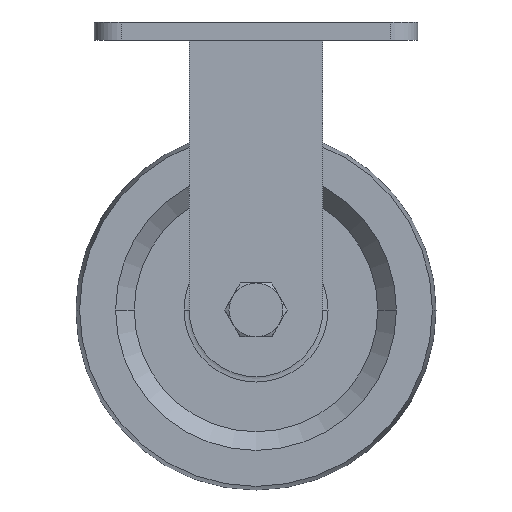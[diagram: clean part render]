
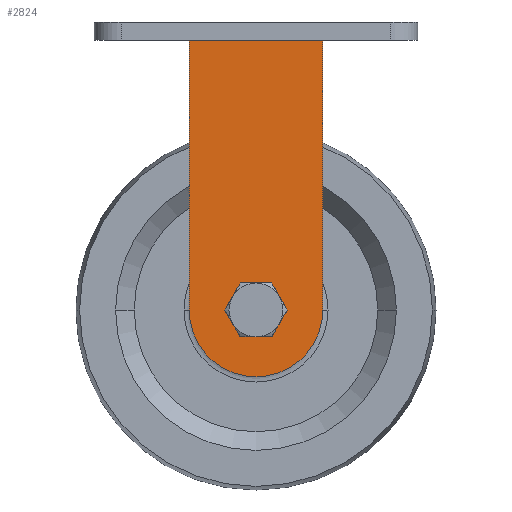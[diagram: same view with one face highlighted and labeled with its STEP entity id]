
A CAD part, front view. The second image highlights one B-rep face of the part: STEP entity #2824.
In plain terms, the highlighted planar face has unit normal (0, -1, 0).
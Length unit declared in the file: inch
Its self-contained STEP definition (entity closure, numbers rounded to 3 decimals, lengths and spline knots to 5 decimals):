
#46 = CARTESIAN_POINT ( 'NONE',  ( 0.92825, -1.4675, 3.75 ) ) ;
#59 = DIRECTION ( 'NONE',  ( 1., 0., 0. ) ) ;
#80 = CARTESIAN_POINT ( 'NONE',  ( 0.92825, -1.4675, 0. ) ) ;
#142 = EDGE_CURVE ( 'NONE', #2082, #633, #2380, .T. ) ;
#144 = LINE ( 'NONE', #1670, #2710 ) ;
#306 = DIRECTION ( 'NONE',  ( 0., -1., 0. ) ) ;
#369 = DIRECTION ( 'NONE',  ( 0., -1., 0. ) ) ;
#459 = CIRCLE ( 'NONE', #634, 0.15625 ) ;
#468 = ORIENTED_EDGE ( 'NONE', *, *, #1844, .T. ) ;
#595 = CARTESIAN_POINT ( 'NONE',  ( -0.92825, -1.4675, 0. ) ) ;
#633 = VERTEX_POINT ( 'NONE', #2648 ) ;
#634 = AXIS2_PLACEMENT_3D ( 'NONE', #3007, #369, #3273 ) ;
#643 = VERTEX_POINT ( 'NONE', #2471 ) ;
#866 = CARTESIAN_POINT ( 'NONE',  ( 0., -1.4675, 0. ) ) ;
#944 = FACE_OUTER_BOUND ( 'NONE', #1012, .T. ) ;
#1012 = EDGE_LOOP ( 'NONE', ( #1408, #468, #2778, #2937 ) ) ;
#1021 = CARTESIAN_POINT ( 'NONE',  ( 0., -1.4675, 0. ) ) ;
#1094 = DIRECTION ( 'NONE',  ( 0., 0., -1. ) ) ;
#1245 = CIRCLE ( 'NONE', #2556, 0.15625 ) ;
#1382 = PLANE ( 'NONE',  #2649 ) ;
#1384 = EDGE_CURVE ( 'NONE', #643, #1796, #1245, .T. ) ;
#1386 = LINE ( 'NONE', #1609, #2860 ) ;
#1389 = AXIS2_PLACEMENT_3D ( 'NONE', #2651, #306, #59 ) ;
#1408 = ORIENTED_EDGE ( 'NONE', *, *, #3282, .T. ) ;
#1603 = ORIENTED_EDGE ( 'NONE', *, *, #1384, .F. ) ;
#1609 = CARTESIAN_POINT ( 'NONE',  ( -0.92825, -1.4675, 0. ) ) ;
#1670 = CARTESIAN_POINT ( 'NONE',  ( 0.92825, -1.4675, 3.75 ) ) ;
#1796 = VERTEX_POINT ( 'NONE', #2354 ) ;
#1807 = EDGE_CURVE ( 'NONE', #2468, #2082, #2422, .T. ) ;
#1844 = EDGE_CURVE ( 'NONE', #3346, #2468, #1386, .T. ) ;
#1902 = FACE_BOUND ( 'NONE', #3058, .T. ) ;
#2013 = ORIENTED_EDGE ( 'NONE', *, *, #3250, .F. ) ;
#2082 = VERTEX_POINT ( 'NONE', #80 ) ;
#2243 = DIRECTION ( 'NONE',  ( 0., -1., 0. ) ) ;
#2338 = DIRECTION ( 'NONE',  ( 0., -1., 0. ) ) ;
#2354 = CARTESIAN_POINT ( 'NONE',  ( -0.15625, -1.4675, 0. ) ) ;
#2380 = LINE ( 'NONE', #46, #2756 ) ;
#2422 = CIRCLE ( 'NONE', #1389, 0.92825 ) ;
#2468 = VERTEX_POINT ( 'NONE', #595 ) ;
#2471 = CARTESIAN_POINT ( 'NONE',  ( 0.15625, -1.4675, 0. ) ) ;
#2515 = DIRECTION ( 'NONE',  ( 1., 0., 0. ) ) ;
#2526 = CARTESIAN_POINT ( 'NONE',  ( -0.92825, -1.4675, 3.75 ) ) ;
#2556 = AXIS2_PLACEMENT_3D ( 'NONE', #1021, #2338, #2829 ) ;
#2648 = CARTESIAN_POINT ( 'NONE',  ( 0.92825, -1.4675, 3.75 ) ) ;
#2649 = AXIS2_PLACEMENT_3D ( 'NONE', #866, #2243, #2515 ) ;
#2651 = CARTESIAN_POINT ( 'NONE',  ( 0., -1.4675, 0. ) ) ;
#2710 = VECTOR ( 'NONE', #3024, 39.37008 ) ;
#2756 = VECTOR ( 'NONE', #3173, 39.37008 ) ;
#2778 = ORIENTED_EDGE ( 'NONE', *, *, #1807, .T. ) ;
#2824 = ADVANCED_FACE ( 'NONE', ( #1902, #944 ), #1382, .T. ) ;
#2829 = DIRECTION ( 'NONE',  ( 1., 0., 0. ) ) ;
#2860 = VECTOR ( 'NONE', #1094, 39.37008 ) ;
#2937 = ORIENTED_EDGE ( 'NONE', *, *, #142, .T. ) ;
#3007 = CARTESIAN_POINT ( 'NONE',  ( 0., -1.4675, 0. ) ) ;
#3024 = DIRECTION ( 'NONE',  ( -1., 0., 0. ) ) ;
#3058 = EDGE_LOOP ( 'NONE', ( #2013, #1603 ) ) ;
#3173 = DIRECTION ( 'NONE',  ( 0., 0., 1. ) ) ;
#3250 = EDGE_CURVE ( 'NONE', #1796, #643, #459, .T. ) ;
#3273 = DIRECTION ( 'NONE',  ( 1., 0., 0. ) ) ;
#3282 = EDGE_CURVE ( 'NONE', #633, #3346, #144, .T. ) ;
#3346 = VERTEX_POINT ( 'NONE', #2526 ) ;
